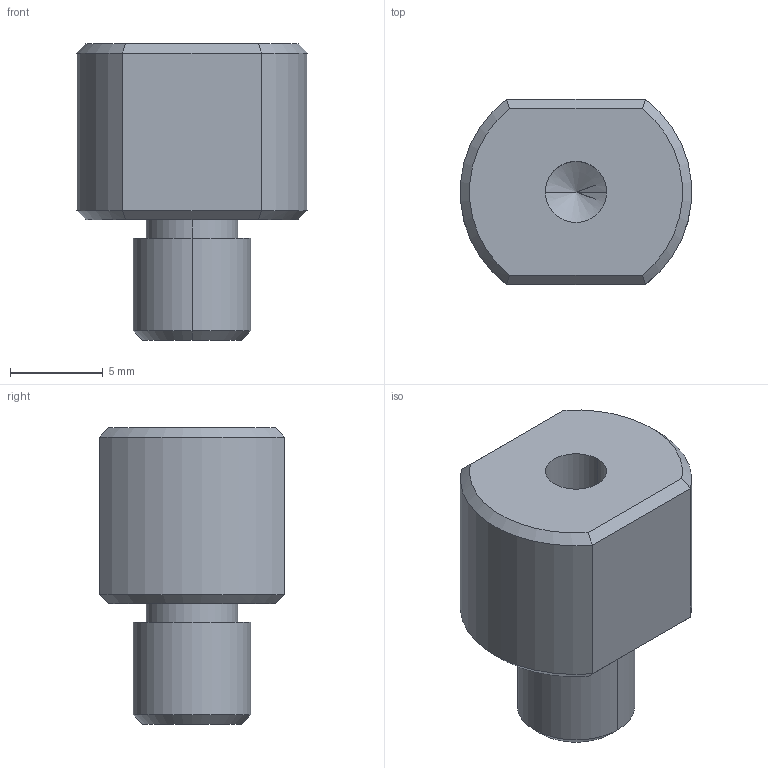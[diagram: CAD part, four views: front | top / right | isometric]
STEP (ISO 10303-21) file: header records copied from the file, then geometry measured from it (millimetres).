
FILE_DESCRIPTION (( 'STEP AP214' ), '1' );
FILE_NAME ('TAIM4E25.STEP', '2022-01-19T04:02:57', ( '' ), ( '' ), 'SwSTEP 2.0', 'SolidWorks 2019', '' );
FILE_SCHEMA (( 'AUTOMOTIVE_DESIGN' ));
Length unit declared in the file: millimetre
Products named in the file (1): TAIM4E25
Bounding box: 12.46 x 10 x 16 mm (x, y, z)
Volume: 1154.2 mm3; surface area: 788.9 mm2
Topology: 1 solids, 1 shells, 26 faces, 54 edges, 31 vertices
Faces by surface type: plane 10, cylinder 8, cone 8
Entity records: 756 total; most frequent: CARTESIAN_POINT 134, DIRECTION 120, ORIENTED_EDGE 104, EDGE_CURVE 52, AXIS2_PLACEMENT_3D 49, VERTEX_POINT 31, EDGE_LOOP 29, FACE_OUTER_BOUND 26
